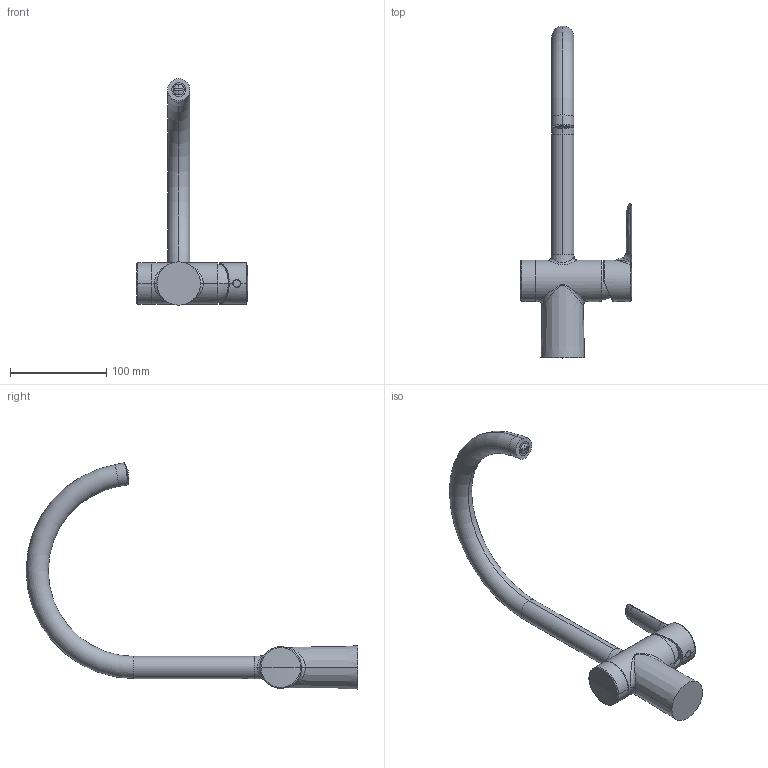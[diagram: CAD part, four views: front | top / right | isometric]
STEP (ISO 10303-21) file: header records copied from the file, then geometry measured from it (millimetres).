
FILE_DESCRIPTION((''),'2;1');
FILE_NAME('59071--00_SUB01_SW0001','2026-10-02T12:00:28',('simi1'),(''),'CREO PARAMETRIC BY PTC INC, 2022244','CREO PARAMETRIC BY PTC INC, 2022244','');
FILE_SCHEMA(('CONFIG_CONTROL_DESIGN'));
Length unit declared in the file: millimetre
Products named in the file (1): 59071--00_SUB01_SW0001
Bounding box: 115.75 x 344.17 x 234.83 mm (x, y, z)
Surface area: 70047.5 mm2 (no closed solid volume)
Topology: 0 solids, 32 shells, 268 faces, 1288 edges, 1023 vertices
Faces by surface type: bspline 159, cylinder 52, plane 33, torus 11, sphere 7, cone 6
Entity records: 24721 total; most frequent: CARTESIAN_POINT 17179, ORIENTED_EDGE 1756, EDGE_CURVE 1286, VERTEX_POINT 1023, B_SPLINE_CURVE_WITH_KNOTS 969, DIRECTION 720, AXIS2_PLACEMENT_3D 294, EDGE_LOOP 268
